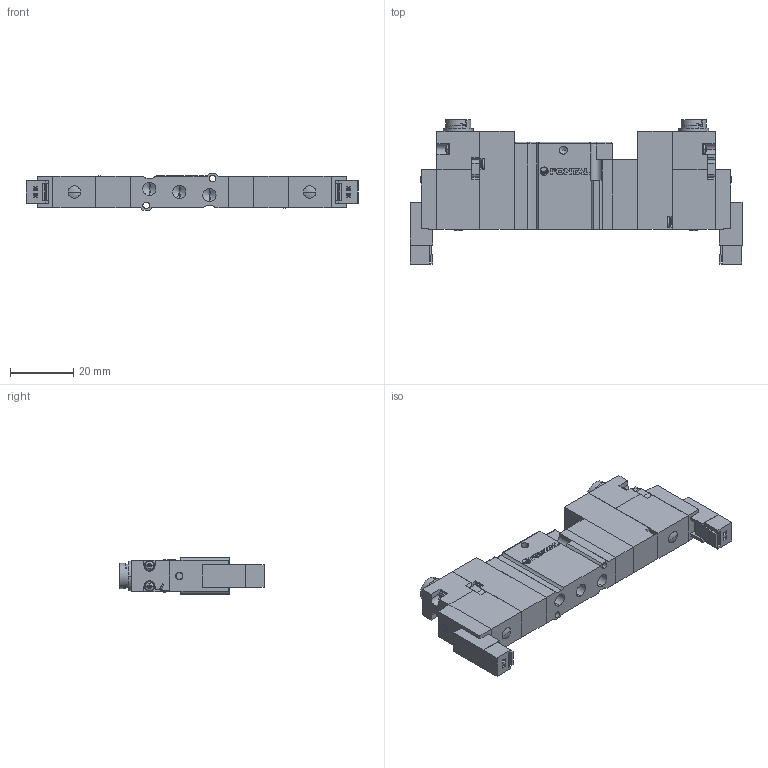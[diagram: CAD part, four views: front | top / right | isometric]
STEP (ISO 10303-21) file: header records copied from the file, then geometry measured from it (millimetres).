
FILE_DESCRIPTION (( 'STEP AP203' ), '1' );
FILE_NAME ('A05RD(E¡BO)35#-#Q-#-E.STEP', '2016-02-04T02:05:04', ( 'Sam Lin' ), ( '' ), 'SwSTEP 2.0', 'SolidWorks 2013', '' );
FILE_SCHEMA (( 'CONFIG_CONTROL_DESIGN' ));
Length unit declared in the file: metre
Products named in the file (14): A05RS25-9-2; mark-ADEX-A05RS; A05RS25-10-2; A05RS25-13; A05RD(E、O)35#-#Q-#-E; A05RS25-3; A05RS25-4; A05RS25-5; A05RS25-6; A05RS25-#-#-#; A05RS25-7; A05RS25-2; A05RS25-8-2; ISO 7045 - M1.6 x 10
Assembly tree (33 placements, depth 2):
  A05RD(E、O)35#-#Q-#-E
    A05RS25-#-#-#
    A05RS25-2  x2
    ISO 7045 - M1.6 x 10  x8
    mark-ADEX-A05RS
    A05RS25-13
    A05RS25-3  x2
    A05RS25-4  x2
    A05RS25-5  x2
    A05RS25-6  x4
    A05RS25-7  x2
    A05RS25-8-2  x4
    A05RS25-9-2  x2
    A05RS25-10-2  x2
Bounding box: 105 x 45.6 x 11.4 mm (x, y, z)
Volume: 25754.9 mm3; surface area: 17937.7 mm2
Topology: 41 solids, 41 shells, 1029 faces, 2580 edges, 1633 vertices
Faces by surface type: plane 677, cylinder 186, cone 92, bspline 74
Entity records: 16259 total; most frequent: CARTESIAN_POINT 3289, ORIENTED_EDGE 2274, DIRECTION 2232, EDGE_CURVE 1137, LINE 808, VECTOR 808, VERTEX_POINT 741, AXIS2_PLACEMENT_3D 712
